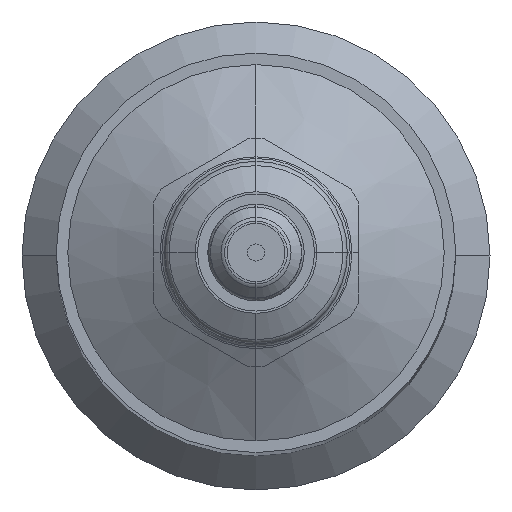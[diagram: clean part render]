
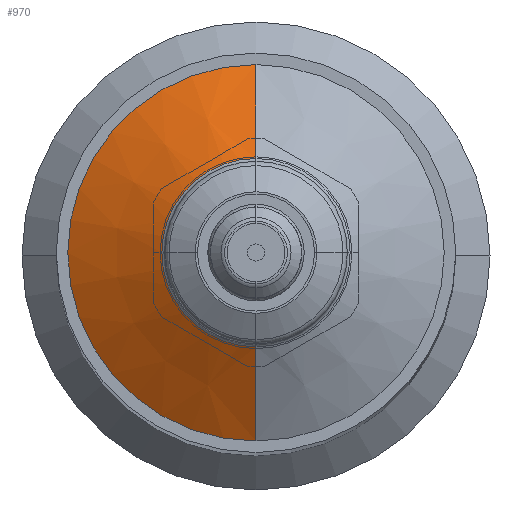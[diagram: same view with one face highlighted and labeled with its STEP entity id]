
A CAD part, top view. The second image highlights one B-rep face of the part: STEP entity #970.
In plain terms, the highlighted conical face has half-angle 60 degrees and reference radius 35 mm.
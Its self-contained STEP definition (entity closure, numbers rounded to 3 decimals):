
#970 = ADVANCED_FACE ( 'NONE', ( #15106 ), #15112, .T. ) ;
#1366 = ORIENTED_EDGE ( 'NONE', *, *, #8491, .T. ) ;
#1367 = ORIENTED_EDGE ( 'NONE', *, *, #8414, .F. ) ;
#3948 = VERTEX_POINT ( 'NONE', #18923 ) ;
#3971 = VERTEX_POINT ( 'NONE', #18946 ) ;
#3972 = VERTEX_POINT ( 'NONE', #18947 ) ;
#3973 = VERTEX_POINT ( 'NONE', #18948 ) ;
#7702 = EDGE_LOOP ( 'NONE', ( #1367, #1366, #9097, #9099 ) ) ;
#8406 = EDGE_CURVE ( 'NONE', #3973, #3971, #22258, .T. ) ;
#8414 = EDGE_CURVE ( 'NONE', #3972, #3948, #22264, .T. ) ;
#8488 = EDGE_CURVE ( 'NONE', #3948, #3973, #22321, .T. ) ;
#8491 = EDGE_CURVE ( 'NONE', #3972, #3971, #22324, .T. ) ;
#9002 = AXIS2_PLACEMENT_3D ( 'NONE', #12454, #12455, #12456 ) ;
#9097 = ORIENTED_EDGE ( 'NONE', *, *, #8406, .F. ) ;
#9099 = ORIENTED_EDGE ( 'NONE', *, *, #8488, .F. ) ;
#12454 = CARTESIAN_POINT ( 'NONE',  ( 0., 0., 370.83 ) ) ;
#12455 = DIRECTION ( 'NONE',  ( 0., 0., -1. ) ) ;
#12456 = DIRECTION ( 'NONE',  ( 0., -1., 0. ) ) ;
#15106 = FACE_OUTER_BOUND ( 'NONE', #7702, .T. ) ;
#15112 = CONICAL_SURFACE ( 'NONE', #9002, 35., 1.047 ) ;
#16019 = AXIS2_PLACEMENT_3D ( 'NONE', #21815, #21816, #21817 ) ;
#16023 = AXIS2_PLACEMENT_3D ( 'NONE', #21829, #21830, #21831 ) ;
#18923 = CARTESIAN_POINT ( 'NONE',  ( 0., -16.5, 381.511 ) ) ;
#18946 = CARTESIAN_POINT ( 'NONE',  ( 0., 32.974, 372. ) ) ;
#18947 = CARTESIAN_POINT ( 'NONE',  ( 0., 16.5, 381.511 ) ) ;
#18948 = CARTESIAN_POINT ( 'NONE',  ( 0., -32.974, 372. ) ) ;
#21815 = CARTESIAN_POINT ( 'NONE',  ( 0., 0., 372. ) ) ;
#21816 = DIRECTION ( 'NONE',  ( 0., 0., -1. ) ) ;
#21817 = DIRECTION ( 'NONE',  ( 1., 0., 0. ) ) ;
#21829 = CARTESIAN_POINT ( 'NONE',  ( 0., 0., 381.511 ) ) ;
#21830 = DIRECTION ( 'NONE',  ( 0., 0., 1. ) ) ;
#21831 = DIRECTION ( 'NONE',  ( 0., 1., 0. ) ) ;
#21959 = CARTESIAN_POINT ( 'NONE',  ( 0., -35., 370.83 ) ) ;
#21960 = DIRECTION ( 'NONE',  ( 0., -0.866, -0.5 ) ) ;
#21964 = CARTESIAN_POINT ( 'NONE',  ( 0., 35., 370.83 ) ) ;
#21965 = DIRECTION ( 'NONE',  ( 0., 0.866, -0.5 ) ) ;
#22258 = CIRCLE ( 'NONE', #16019, 32.974 ) ;
#22264 = CIRCLE ( 'NONE', #16023, 16.5 ) ;
#22321 = LINE ( 'NONE', #21959, #22323 ) ;
#22323 = VECTOR ( 'NONE', #21960, 1000. ) ;
#22324 = LINE ( 'NONE', #21964, #22326 ) ;
#22326 = VECTOR ( 'NONE', #21965, 1000. ) ;
